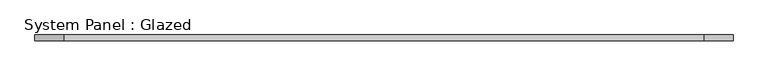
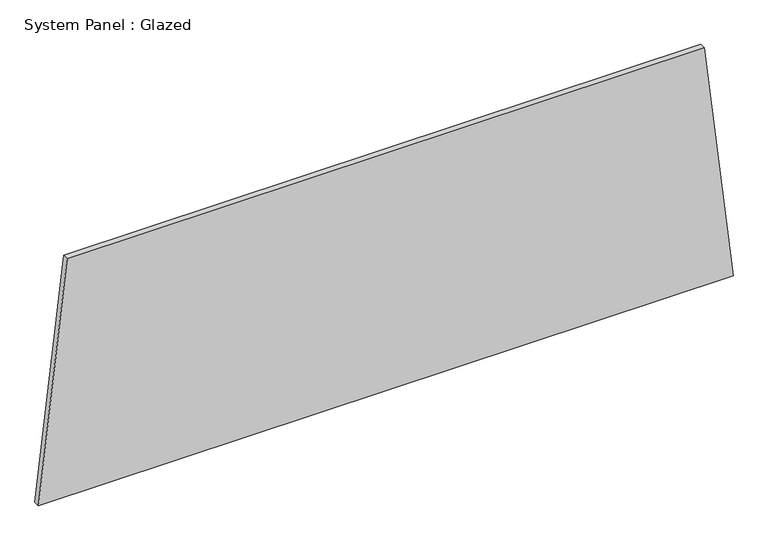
"""IFC4 building model written with IfcOpenShell, lengths in millimetres: plate geometry, System Panel : Glazed."""

import ifcopenshell
import ifcopenshell.guid

model = None  # the IFC model being written
_history = None  # IfcOwnerHistory: only IFC2X3 demands one
_inside = {}  # id of a spatial element -> (the spatial element, [elements in it])
_under = {}  # id of a project, library or spatial element -> (it, [spatial elements below it])
_declared = {}  # id of a project -> (the project, [libraries it declares])
_typed = {}  # id of a type object -> (the type object, [elements of that type])
_made_of = {}  # id of a material, layer set ... -> (it, [elements and type objects made of it])


def new_model(schema):
    """Start an empty IFC model of exactly this schema.

    Asked for "IFC4X3", IfcOpenShell would pick the latest addendum, in which some entities
    have other attributes; the version numbers below select the first issue.
    IFC2X3 requires an IfcOwnerHistory on every rooted entity: one is made here for all.
    """
    global model, _history
    if schema == "IFC4X3":
        model = ifcopenshell.file(schema_version=(4, 3, 0, 0))
    else:
        model = ifcopenshell.file(schema=schema)
    _inside.clear()
    _under.clear()
    _declared.clear()
    _typed.clear()
    _made_of.clear()
    _history = None
    if model.schema == "IFC2X3":
        org = make("IfcOrganization", Name="unknown")
        user = make(
            "IfcPersonAndOrganization",
            ThePerson=make("IfcPerson", FamilyName="unknown"),
            TheOrganization=org,
        )
        app = make(
            "IfcApplication",
            ApplicationDeveloper=org,
            Version="unknown",
            ApplicationFullName="unknown",
            ApplicationIdentifier="unknown",
        )
        _history = make(
            "IfcOwnerHistory",
            OwningUser=user,
            OwningApplication=app,
            ChangeAction="ADDED",
            CreationDate=0,
        )
    return model


def make(cls, **values):
    """One entity of the class cls with the attributes given. An attribute that is None is left unset."""
    return model.create_entity(
        cls, **{name: value for name, value in values.items() if value is not None}
    )


def rooted(cls, **values):
    """An entity with a GlobalId (a new one), such as an element, a storey or a relation."""
    return make(cls, GlobalId=ifcopenshell.guid.new(), OwnerHistory=_history, **values)


def si_unit(unit_type, name, prefix=None):
    """IfcSIUnit, for example si_unit("LENGTHUNIT", "METRE", prefix="MILLI")."""
    return make("IfcSIUnit", UnitType=unit_type, Prefix=prefix, Name=name)


def assignment(units):
    """IfcUnitAssignment: the units of a project."""
    return None if units is None else make("IfcUnitAssignment", Units=units)


def point(xyz):
    """IfcCartesianPoint."""
    return None if xyz is None else make("IfcCartesianPoint", Coordinates=xyz)


def direction(xyz):
    """IfcDirection."""
    return None if xyz is None else make("IfcDirection", DirectionRatios=xyz)


def frame(location, z_axis=None, x_axis=None):
    """IfcAxis2Placement3D, a coordinate frame: its origin and axes. An axis left out is left unset."""
    return make(
        "IfcAxis2Placement3D",
        Location=point(location),
        Axis=direction(z_axis),
        RefDirection=direction(x_axis),
    )


def origin():
    """The frame at (0, 0, 0) with its axes left unset."""
    return frame((0.0, 0.0, 0.0))


def place(relative_to, where):
    """IfcLocalPlacement: puts the frame where relative to a parent placement (None: the world)."""
    return make(
        "IfcLocalPlacement", PlacementRelTo=relative_to, RelativePlacement=where
    )


def context(
    kind, dimensions, precision=None, world=None, true_north=None, identifier=None
):
    """IfcGeometricRepresentationContext, for example the 3D "Model" context."""
    return make(
        "IfcGeometricRepresentationContext",
        ContextIdentifier=identifier,
        ContextType=kind,
        CoordinateSpaceDimension=dimensions,
        Precision=precision,
        WorldCoordinateSystem=world,
        TrueNorth=true_north,
    )


def project(units=None, contexts=None):
    """IfcProject with its units and contexts."""
    return rooted(
        "IfcProject",
        Name="project",
        RepresentationContexts=contexts,
        UnitsInContext=assignment(units),
    )


def spatial(cls, under=None, at=None, **own):
    """A site, building, storey or space (cls), placed at a placement, below another one or the project."""
    s = rooted(cls, ObjectPlacement=at, **own)
    if under is not None:
        _under.setdefault(under.id(), (under, []))[1].append(s)
    return s


def polyline(points):
    """IfcPolyline through the points."""
    return make("IfcPolyline", Points=[point(p) for p in points])


def outline(outer, holes=None, kind="AREA"):
    """IfcArbitraryClosedProfileDef: a profile drawn as a closed curve; with holes, ...WithVoids."""
    if holes is None:
        return make("IfcArbitraryClosedProfileDef", ProfileType=kind, OuterCurve=outer)
    return make(
        "IfcArbitraryProfileDefWithVoids",
        ProfileType=kind,
        OuterCurve=outer,
        InnerCurves=holes,
    )


def extrude(swept, where, along, depth):
    """IfcExtrudedAreaSolid: the profile swept, set in the frame where, extruded along a direction by depth."""
    return make(
        "IfcExtrudedAreaSolid",
        SweptArea=swept,
        Position=where,
        ExtrudedDirection=direction(along),
        Depth=depth,
    )


def shape(context_of_items, identifier, shape_type, items):
    """IfcShapeRepresentation: the items that make up one representation, for example the "Body"."""
    return make(
        "IfcShapeRepresentation",
        ContextOfItems=context_of_items,
        RepresentationIdentifier=identifier,
        RepresentationType=shape_type,
        Items=items,
    )


def source(mapping_origin, context_of_items, identifier, shape_type, items):
    """IfcRepresentationMap: a shape defined once, which mapped items show again and again."""
    return make(
        "IfcRepresentationMap",
        MappingOrigin=mapping_origin,
        MappedRepresentation=shape(context_of_items, identifier, shape_type, items),
    )


def transform(
    local_origin,
    x_axis=None,
    y_axis=None,
    z_axis=None,
    scale=None,
    scale2=None,
    scale3=None,
    uniform=True,
):
    """IfcCartesianTransformationOperator3D, or its non-uniform kind. x_axis, y_axis, z_axis: its Axis1, 2, 3."""
    if uniform:
        return make(
            "IfcCartesianTransformationOperator3D",
            Axis1=direction(x_axis),
            Axis2=direction(y_axis),
            LocalOrigin=point(local_origin),
            Scale=scale,
            Axis3=direction(z_axis),
        )
    return make(
        "IfcCartesianTransformationOperator3DnonUniform",
        Axis1=direction(x_axis),
        Axis2=direction(y_axis),
        LocalOrigin=point(local_origin),
        Scale=scale,
        Axis3=direction(z_axis),
        Scale2=scale2,
        Scale3=scale3,
    )


def mapped(mapping_source, mapping_target):
    """IfcMappedItem: shows the shape of a source again, moved by a transform."""
    return make(
        "IfcMappedItem", MappingSource=mapping_source, MappingTarget=mapping_target
    )


def made_of(thing, what):
    """Note that an element or type object is made of a material, layer set ...; save() writes the relation."""
    if what is not None:
        _made_of.setdefault(what.id(), (what, []))[1].append(thing)
    return thing


def element(
    cls,
    number,
    at=None,
    inside=None,
    cuts=None,
    type_object=None,
    material=None,
    context=None,
    identifier="Body",
    shape_type=None,
    held_by="IfcProductDefinitionShape",
    body=None,
    shapes=None,
    **own,
):
    """One element of the class cls, such as IfcWall. Its Tag is "e" and its number.

    at: its placement. inside: the storey or other place that contains it. cuts: it is an
    opening in that element (IfcRelVoidsElement). A single representation is given by context,
    identifier, shape_type and body (its items); several are given by shapes. held_by: the class
    of the entity that holds the representations. save() writes the other relations.
    """
    e = rooted(cls, Tag="e%d" % number, ObjectPlacement=at, **own)
    if body is not None:
        shapes = [shape(context, identifier, shape_type, body)]
    if shapes is not None:
        e.Representation = make(held_by, Representations=shapes)
    if inside is not None:
        _inside.setdefault(inside.id(), (inside, []))[1].append(e)
    if cuts is not None:
        rooted(
            "IfcRelVoidsElement", RelatingBuildingElement=cuts, RelatedOpeningElement=e
        )
    if type_object is not None:
        _typed.setdefault(type_object.id(), (type_object, []))[1].append(e)
    return made_of(e, material)


def aggregate(whole, parts):
    """IfcRelAggregates: a whole, such as a stair, and the parts it consists of."""
    return rooted("IfcRelAggregates", RelatingObject=whole, RelatedObjects=parts)


def save(model, path):
    """Write the relations noted so far, then the file.

    IfcRelAggregates (storeys below a building ...), IfcRelContainedInSpatialStructure (elements
    in a storey), IfcRelDefinesByType, IfcRelAssociatesMaterial and IfcRelDeclares: one each for
    every whole, place, type object, material and project.
    """
    for whole, parts in _under.values():
        aggregate(whole, parts)
    for where, things in _inside.values():
        rooted(
            "IfcRelContainedInSpatialStructure",
            RelatedElements=things,
            RelatingStructure=where,
        )
    for kind, things in _typed.values():
        rooted("IfcRelDefinesByType", RelatedObjects=things, RelatingType=kind)
    for what, things in _made_of.values():
        rooted("IfcRelAssociatesMaterial", RelatedObjects=things, RelatingMaterial=what)
    for by, libraries in _declared.values():
        rooted("IfcRelDeclares", RelatingContext=by, RelatedDefinitions=libraries)
    model.write(path)


def system_panel_glazed_62ab61e8(model_context):
    return source(origin(), model_context, "Body", "SweptSolid", [
        extrude(outline(polyline([(0.0, -1467.6133237), (0.0, 1467.6133237), (1059.9187468, 1346.640227), (1059.9187468, -1346.640227), (0.0, -1467.6133237)])), frame((0.0, -44.45, 0.0), z_axis=(0.0, 1.0, 0.0), x_axis=(0.0, 0.0, 1.0)), (0.0, 0.0, 1.0), 25.4),
    ])


if __name__ == "__main__":
    model = new_model("IFC4")
    model_context = context("Model", 3, world=origin())
    ifc_project = project(units=[si_unit("LENGTHUNIT", "METRE", prefix="MILLI")], contexts=[model_context])
    site = spatial("IfcSite", under=ifc_project)
    building = spatial("IfcBuilding", under=site)
    placement = place(None, origin())
    system_panel_glazed_shape = system_panel_glazed_62ab61e8(model_context)
    element("IfcPlate", 1, ObjectType="System Panel : Glazed", at=placement, inside=building, context=model_context, shape_type="MappedRepresentation", body=[
        mapped(system_panel_glazed_shape, transform((0.0, 0.0, 0.0), x_axis=(1.0, 0.0, 0.0), y_axis=(0.0, 1.0, 0.0), z_axis=(0.0, 0.0, 1.0))),
    ])
    save(model, "model.ifc")
